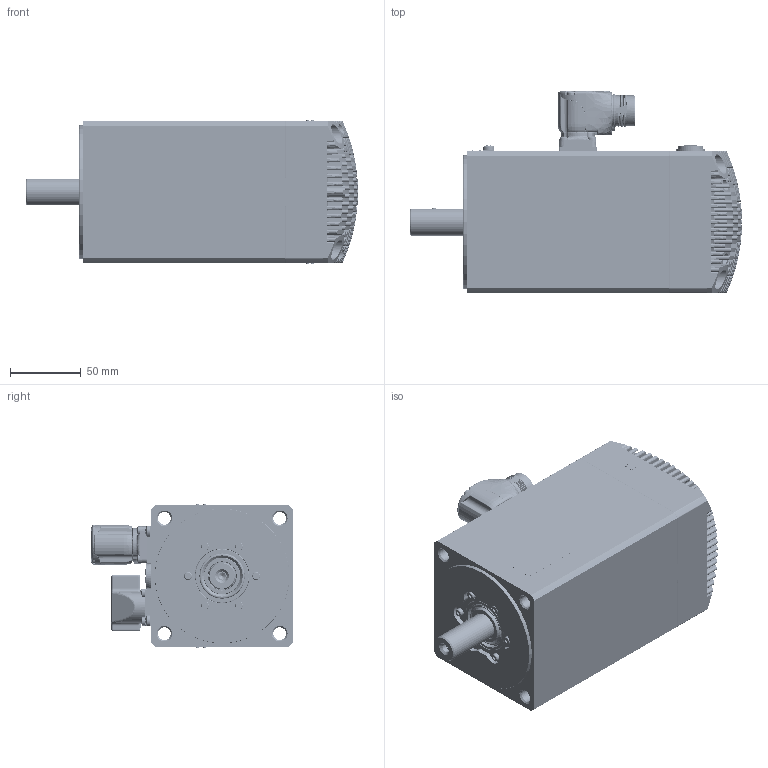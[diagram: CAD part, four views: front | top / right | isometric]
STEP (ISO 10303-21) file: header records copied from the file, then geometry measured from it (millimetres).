
FILE_DESCRIPTION((''),'2;1');
FILE_NAME('32190015748_ASM','2022-04-12T12:08:23',('gabrielec'),(''),'CREO PARAMETRIC BY PTC INC, 2021304','CREO PARAMETRIC BY PTC INC, 2021304','');
FILE_SCHEMA(('AP242_MANAGED_MODEL_BASED_3D_ENGINEERING_MIM_LF { 1 0 10303 442 1 1 4 }'));
Products named in the file (38): 52580N-0; 32149915564_ASM; 22320015080; 50938N-0; 22320015080_ASM; 32050015015_ASM; 32060015581_ASM; 51941N-1; 32090015035_ASM; NRG_001; M3X16_GBT70-1; GB_T862_1; M4X8_GBT818_CU; 51093N-0; 32159915248_ASM; 22160015160; MENTOR-1292_9013; CEMBRE_FD9; CEMBRE_2053M16N; 32150015177_ASM; PHOENIX-1605586; 33000015098_AF19_ASM; UNI7687_M3X8_INOX; CORPO_3; 33200303857_AF9_ASM; 31500303857_AF9_ASM; 50941N-0; UNI7687_M3X6_INOX; UNI5931_M3X6_INOX; 22210015021; 32150015176_ASM; UNI5931_M4X16; LIP_SEAL_TW05; 22250015024; 22250015126; 43500000229; 43500000050; 32190015748_ASM
Assembly tree (65 placements, depth 7):
  32190015748_ASM
    32159915248_ASM
      32149915564_ASM
        52580N-0
      32090015035_ASM
        32060015581_ASM
          32050015015_ASM
            22320015080_ASM
              22320015080
              50938N-0
        51941N-1
      NRG_001  x6
      M3X16_GBT70-1  x6
      GB_T862_1  x2
      M4X8_GBT818_CU  x2
      51093N-0
    32150015177_ASM
      22160015160
      MENTOR-1292_9013  x8
      CEMBRE_FD9
      CEMBRE_2053M16N
    33000015098_AF19_ASM
      PHOENIX-1605586
    UNI7687_M3X8_INOX  x4
    31500303857_AF9_ASM
      33200303857_AF9_ASM
        CORPO_3
    50941N-0  x2
    UNI7687_M3X6_INOX  x3
    UNI5931_M3X6_INOX
    32150015176_ASM
      22210015021
    UNI5931_M4X16  x4
    LIP_SEAL_TW05
    22250015024
    22250015126
    43500000229
    43500000050
Bounding box: 234 x 142.41 x 100.8 mm (x, y, z)
Volume: 718673.7 mm3; surface area: 349015.2 mm2
Topology: 74 solids, 102 shells, 4635 faces, 11654 edges, 7393 vertices
Faces by surface type: plane 1599, cylinder 1136, cone 665, bspline 612, torus 358, sphere 243, revolution 11, extrusion 11
Entity records: 201053 total; most frequent: CARTESIAN_POINT 68355, ORIENTED_EDGE 20612, DIRECTION 18796, PRESENTATION_STYLE_ASSIGNMENT 10718, EDGE_CURVE 10361, STYLED_ITEM 10359, CURVE_STYLE 10287, AXIS2_PLACEMENT_3D 7304
